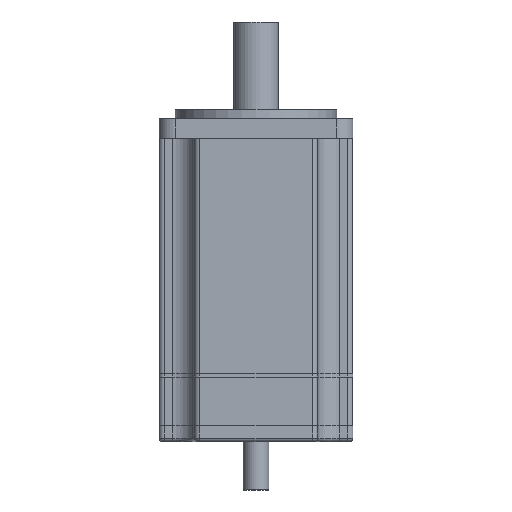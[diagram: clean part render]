
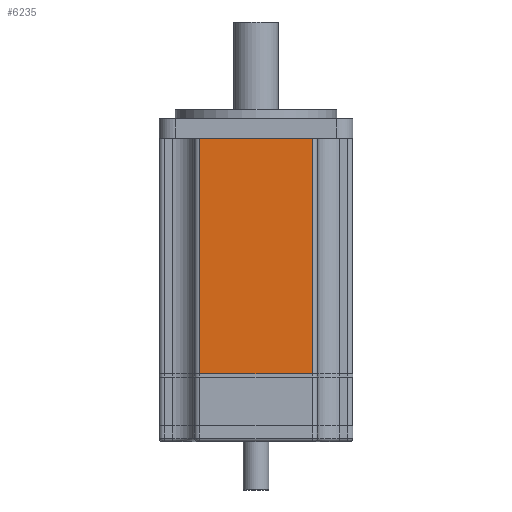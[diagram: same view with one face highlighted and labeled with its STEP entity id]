
A CAD part, front view. The second image highlights one B-rep face of the part: STEP entity #6235.
In plain terms, the highlighted planar face has unit normal (0, -1, 0).
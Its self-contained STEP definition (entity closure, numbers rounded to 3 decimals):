
#810 = DIRECTION ( 'NONE',  ( 0., 1., 0. ) ) ;
#1296 = LINE ( 'NONE', #12606, #14846 ) ;
#4488 = LINE ( 'NONE', #15784, #25575 ) ;
#4713 = VECTOR ( 'NONE', #30115, 1000. ) ;
#6235 = ADVANCED_FACE ( 'NONE', ( #20238 ), #31520, .F. ) ;
#6425 = CARTESIAN_POINT ( 'NONE',  ( -17.475, -29.975, -6. ) ) ;
#7132 = EDGE_CURVE ( 'NONE', #26838, #17034, #4488, .T. ) ;
#7530 = LINE ( 'NONE', #18799, #4713 ) ;
#8235 = CARTESIAN_POINT ( 'NONE',  ( -17.475, -29.975, -79. ) ) ;
#9929 = ORIENTED_EDGE ( 'NONE', *, *, #7132, .T. ) ;
#10043 = EDGE_CURVE ( 'NONE', #26838, #29580, #7530, .T. ) ;
#12112 = DIRECTION ( 'NONE',  ( -1., 0., 0. ) ) ;
#12547 = VECTOR ( 'NONE', #19517, 1000. ) ;
#12606 = CARTESIAN_POINT ( 'NONE',  ( 17.475, -29.975, -6. ) ) ;
#13458 = EDGE_CURVE ( 'NONE', #17034, #25616, #1296, .T. ) ;
#14846 = VECTOR ( 'NONE', #23924, 1000. ) ;
#15784 = CARTESIAN_POINT ( 'NONE',  ( 17.475, -29.975, -79. ) ) ;
#17034 = VERTEX_POINT ( 'NONE', #26545 ) ;
#18694 = ORIENTED_EDGE ( 'NONE', *, *, #13458, .T. ) ;
#18799 = CARTESIAN_POINT ( 'NONE',  ( 17.475, -29.975, -79. ) ) ;
#19517 = DIRECTION ( 'NONE',  ( 0., 0., 1. ) ) ;
#20238 = FACE_OUTER_BOUND ( 'NONE', #25003, .T. ) ;
#20305 = ORIENTED_EDGE ( 'NONE', *, *, #10043, .F. ) ;
#23474 = AXIS2_PLACEMENT_3D ( 'NONE', #26212, #810, #12112 ) ;
#23924 = DIRECTION ( 'NONE',  ( -1., 0., 0. ) ) ;
#25003 = EDGE_LOOP ( 'NONE', ( #18694, #31432, #20305, #9929 ) ) ;
#25575 = VECTOR ( 'NONE', #27111, 1000. ) ;
#25616 = VERTEX_POINT ( 'NONE', #6425 ) ;
#26212 = CARTESIAN_POINT ( 'NONE',  ( 17.475, -29.975, -79. ) ) ;
#26545 = CARTESIAN_POINT ( 'NONE',  ( 17.475, -29.975, -6. ) ) ;
#26838 = VERTEX_POINT ( 'NONE', #35922 ) ;
#27111 = DIRECTION ( 'NONE',  ( 0., 0., 1. ) ) ;
#29580 = VERTEX_POINT ( 'NONE', #32766 ) ;
#30115 = DIRECTION ( 'NONE',  ( -1., 0., 0. ) ) ;
#31432 = ORIENTED_EDGE ( 'NONE', *, *, #35791, .F. ) ;
#31520 = PLANE ( 'NONE',  #23474 ) ;
#32766 = CARTESIAN_POINT ( 'NONE',  ( -17.475, -29.975, -79. ) ) ;
#33530 = LINE ( 'NONE', #8235, #12547 ) ;
#35791 = EDGE_CURVE ( 'NONE', #29580, #25616, #33530, .T. ) ;
#35922 = CARTESIAN_POINT ( 'NONE',  ( 17.475, -29.975, -79. ) ) ;
